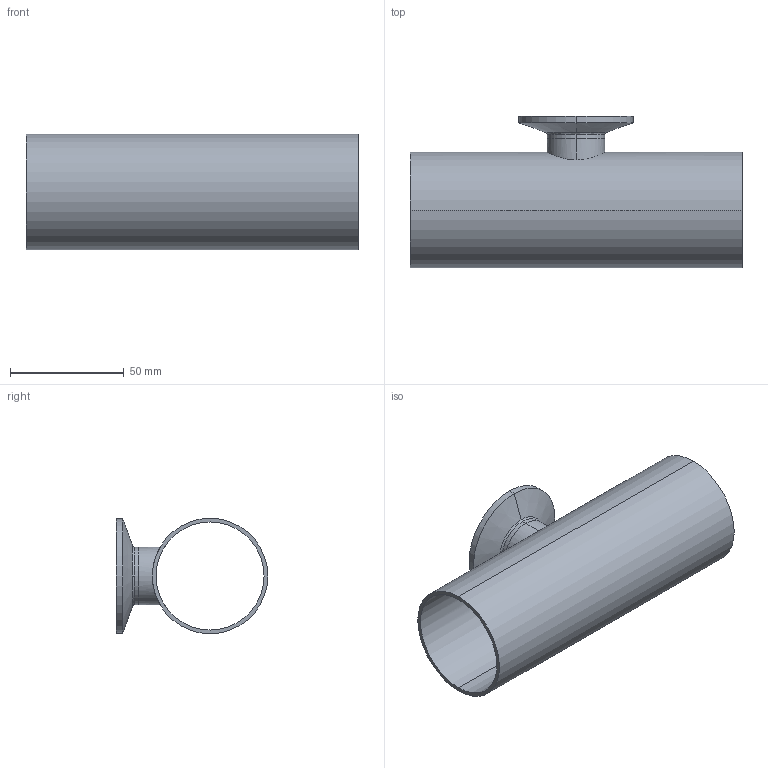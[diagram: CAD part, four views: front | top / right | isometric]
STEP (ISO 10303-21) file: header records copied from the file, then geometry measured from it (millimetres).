
FILE_DESCRIPTION (( 'STEP AP214' ), '1' );
FILE_NAME ('TE7RWWCS6L2.0x1.0-...STEP', '2016-05-23T12:00:58', ( 'eran' ), ( '' ), 'SwSTEP 2.0', 'SolidWorks 2016', '' );
FILE_SCHEMA (( 'AUTOMOTIVE_DESIGN' ));
Length unit declared in the file: millimetre
Products named in the file (1): TE7RWWCS6L2.0x1.0-..
Bounding box: 146 x 66.7 x 50.8 mm (x, y, z)
Volume: 45756 mm3; surface area: 50747.4 mm2
Topology: 2 solids, 2 shells, 36 faces, 88 edges, 58 vertices
Faces by surface type: cylinder 14, bspline 10, plane 6, cone 6
Entity records: 1835 total; most frequent: CARTESIAN_POINT 931, DIRECTION 190, ORIENTED_EDGE 176, EDGE_CURVE 88, AXIS2_PLACEMENT_3D 85, VERTEX_POINT 58, CIRCLE 58, EDGE_LOOP 44
